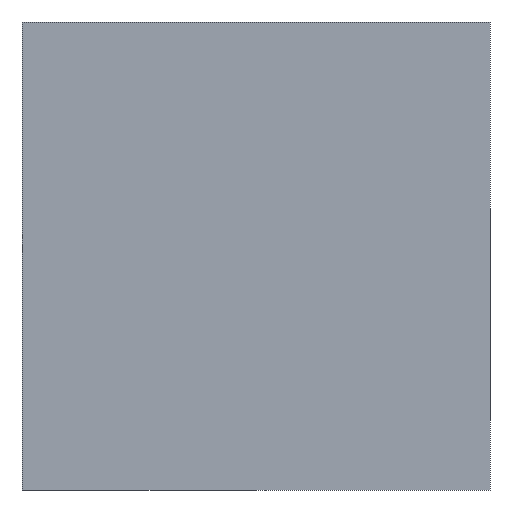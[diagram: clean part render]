
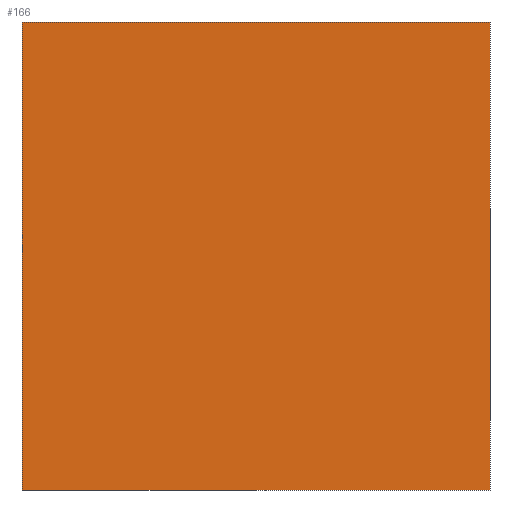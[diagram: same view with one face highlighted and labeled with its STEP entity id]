
A CAD part, left-side view. The second image highlights one B-rep face of the part: STEP entity #166.
In plain terms, the highlighted planar face has unit normal (-1, 0, 0).
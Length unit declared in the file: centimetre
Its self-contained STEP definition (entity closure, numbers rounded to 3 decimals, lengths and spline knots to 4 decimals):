
#1 = VECTOR ( 'NONE', #22, 100. ) ;
#22 = DIRECTION ( 'NONE',  ( 0., -1., 0. ) ) ;
#29 = CARTESIAN_POINT ( 'NONE',  ( 0., 0., 1000. ) ) ;
#34 = CARTESIAN_POINT ( 'NONE',  ( 0., 1000., 0. ) ) ;
#60 = CARTESIAN_POINT ( 'NONE',  ( 0., 1000., 1000. ) ) ;
#69 = CARTESIAN_POINT ( 'NONE',  ( 0., 1000., 1000. ) ) ;
#73 = CARTESIAN_POINT ( 'NONE',  ( 0., 1000., 0. ) ) ;
#78 = CARTESIAN_POINT ( 'NONE',  ( 0., 0., 0. ) ) ;
#95 = ORIENTED_EDGE ( 'NONE', *, *, #337, .T. ) ;
#109 = DIRECTION ( 'NONE',  ( 0., -1., 0. ) ) ;
#115 = LINE ( 'NONE', #29, #405 ) ;
#120 = DIRECTION ( 'NONE',  ( 1., 0., 0. ) ) ;
#122 = EDGE_CURVE ( 'NONE', #307, #205, #115, .T. ) ;
#135 = VECTOR ( 'NONE', #109, 100. ) ;
#139 = DIRECTION ( 'NONE',  ( 0., 0., -1. ) ) ;
#147 = DIRECTION ( 'NONE',  ( 0., 0., -1. ) ) ;
#162 = VERTEX_POINT ( 'NONE', #34 ) ;
#166 = ADVANCED_FACE ( 'NONE', ( #223 ), #469, .F. ) ;
#179 = CARTESIAN_POINT ( 'NONE',  ( 0., 1000., 1000. ) ) ;
#186 = CARTESIAN_POINT ( 'NONE',  ( 0., 1000., 1000. ) ) ;
#205 = VERTEX_POINT ( 'NONE', #78 ) ;
#213 = LINE ( 'NONE', #60, #353 ) ;
#223 = FACE_OUTER_BOUND ( 'NONE', #394, .T. ) ;
#240 = ORIENTED_EDGE ( 'NONE', *, *, #270, .F. ) ;
#251 = LINE ( 'NONE', #73, #1 ) ;
#266 = ORIENTED_EDGE ( 'NONE', *, *, #275, .T. ) ;
#270 = EDGE_CURVE ( 'NONE', #379, #307, #416, .T. ) ;
#275 = EDGE_CURVE ( 'NONE', #162, #205, #251, .T. ) ;
#307 = VERTEX_POINT ( 'NONE', #393 ) ;
#337 = EDGE_CURVE ( 'NONE', #379, #162, #213, .T. ) ;
#353 = VECTOR ( 'NONE', #139, 100. ) ;
#363 = ORIENTED_EDGE ( 'NONE', *, *, #122, .F. ) ;
#379 = VERTEX_POINT ( 'NONE', #69 ) ;
#388 = AXIS2_PLACEMENT_3D ( 'NONE', #186, #120, #413 ) ;
#393 = CARTESIAN_POINT ( 'NONE',  ( 0., 0., 1000. ) ) ;
#394 = EDGE_LOOP ( 'NONE', ( #266, #363, #240, #95 ) ) ;
#405 = VECTOR ( 'NONE', #147, 100. ) ;
#413 = DIRECTION ( 'NONE',  ( 0., 0., -1. ) ) ;
#416 = LINE ( 'NONE', #179, #135 ) ;
#469 = PLANE ( 'NONE',  #388 ) ;
